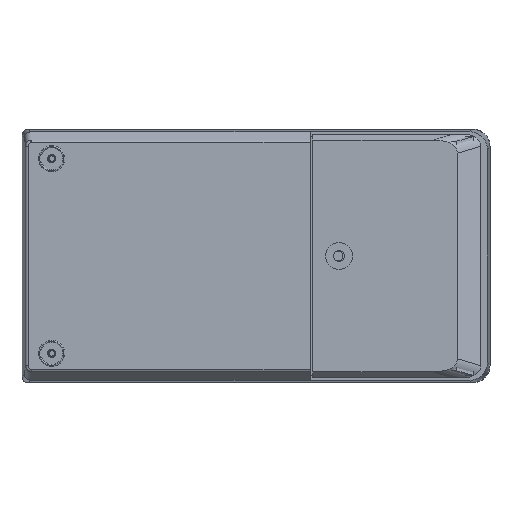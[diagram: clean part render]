
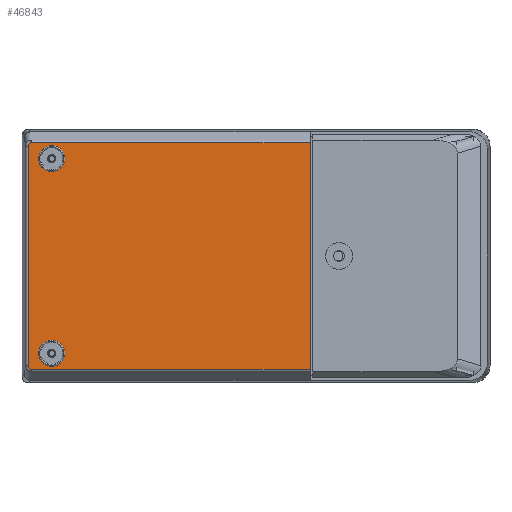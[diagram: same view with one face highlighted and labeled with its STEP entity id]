
A CAD part, front view. The second image highlights one B-rep face of the part: STEP entity #46843.
In plain terms, the highlighted planar face has unit normal (0, -1, 0).
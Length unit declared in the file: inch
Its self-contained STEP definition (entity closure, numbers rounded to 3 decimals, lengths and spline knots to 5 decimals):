
#39 = EDGE_LOOP ( 'NONE', ( #61343, #14520, #23910, #36274, #64973, #57418, #61464 ) ) ;
#469 = AXIS2_PLACEMENT_3D ( 'NONE', #19637, #20124, #25840 ) ;
#969 = VECTOR ( 'NONE', #42190, 39.37008 ) ;
#3059 = ORIENTED_EDGE ( 'NONE', *, *, #57910, .F. ) ;
#5284 = VERTEX_POINT ( 'NONE', #38644 ) ;
#6262 = EDGE_CURVE ( 'NONE', #5284, #63651, #49324, .T. ) ;
#7187 = LINE ( 'NONE', #37161, #969 ) ;
#7218 = DIRECTION ( 'NONE',  ( 0., 0., 1. ) ) ;
#8182 = DIRECTION ( 'NONE',  ( 0., -1., 0. ) ) ;
#10880 = AXIS2_PLACEMENT_3D ( 'NONE', #26276, #71784, #49683 ) ;
#11566 = EDGE_CURVE ( 'NONE', #33660, #41260, #20074, .T. ) ;
#13288 = CARTESIAN_POINT ( 'NONE',  ( -2.30377, -0.587, 1.13065 ) ) ;
#14520 = ORIENTED_EDGE ( 'NONE', *, *, #20201, .T. ) ;
#15236 = EDGE_CURVE ( 'NONE', #63651, #15389, #46996, .T. ) ;
#15389 = VERTEX_POINT ( 'NONE', #57738 ) ;
#15925 = FACE_BOUND ( 'NONE', #67475, .T. ) ;
#16982 = CARTESIAN_POINT ( 'NONE',  ( -2.27677, -0.587, 1.14572 ) ) ;
#17372 = CARTESIAN_POINT ( 'NONE',  ( -2.30377, -0.587, -1.13183 ) ) ;
#17472 = CARTESIAN_POINT ( 'NONE',  ( -2.27454, -0.587, 1.14582 ) ) ;
#17651 = EDGE_LOOP ( 'NONE', ( #36154, #68699 ) ) ;
#18138 = CARTESIAN_POINT ( 'NONE',  ( -2.067, -0.587, 0.985 ) ) ;
#18236 = CARTESIAN_POINT ( 'NONE',  ( -2.30377, -0.587, 1.11177 ) ) ;
#19637 = CARTESIAN_POINT ( 'NONE',  ( -2.067, -0.587, -0.985 ) ) ;
#19841 = VERTEX_POINT ( 'NONE', #65163 ) ;
#20074 =( BOUNDED_CURVE ( )  B_SPLINE_CURVE ( 3, ( #50969, #17372, #34038, #22579 ),
 .UNSPECIFIED., .F., .F. ) 
 B_SPLINE_CURVE_WITH_KNOTS ( ( 4, 4 ),
 ( 1.6723, 3.21614 ),
 .UNSPECIFIED. ) 
 CURVE ( )  GEOMETRIC_REPRESENTATION_ITEM ( )  RATIONAL_B_SPLINE_CURVE ( ( 1., 0.811, 0.811, 1. ) ) 
 REPRESENTATION_ITEM ( '' )  );
#20124 = DIRECTION ( 'NONE',  ( 0., 1., 0. ) ) ;
#20201 = EDGE_CURVE ( 'NONE', #41260, #19841, #27026, .T. ) ;
#20538 = CARTESIAN_POINT ( 'NONE',  ( -2.30377, -0.587, -1.11177 ) ) ;
#21756 = EDGE_CURVE ( 'NONE', #64891, #56634, #55311, .T. ) ;
#22579 = CARTESIAN_POINT ( 'NONE',  ( -2.27454, -0.587, -1.14582 ) ) ;
#23110 = CIRCLE ( 'NONE', #44454, 0.132 ) ;
#23241 = EDGE_CURVE ( 'NONE', #5284, #19841, #7187, .T. ) ;
#23303 = DIRECTION ( 'NONE',  ( -1., 0., 0. ) ) ;
#23840 = DIRECTION ( 'NONE',  ( 0., -1., 0. ) ) ;
#23910 = ORIENTED_EDGE ( 'NONE', *, *, #23241, .F. ) ;
#25049 = DIRECTION ( 'NONE',  ( 0., 0., 1. ) ) ;
#25290 = DIRECTION ( 'NONE',  ( 0., 1., 0. ) ) ;
#25840 = DIRECTION ( 'NONE',  ( 0., 0., 1. ) ) ;
#26258 = CARTESIAN_POINT ( 'NONE',  ( -2.067, -0.587, -0.853 ) ) ;
#26276 = CARTESIAN_POINT ( 'NONE',  ( -2.067, -0.587, -0.985 ) ) ;
#27026 = LINE ( 'NONE', #36470, #53756 ) ;
#27808 = CARTESIAN_POINT ( 'NONE',  ( -2.067, -0.587, -1.117 ) ) ;
#28049 = VECTOR ( 'NONE', #44694, 39.37008 ) ;
#28398 = CARTESIAN_POINT ( 'NONE',  ( -2.067, -0.587, 0.853 ) ) ;
#28945 = CARTESIAN_POINT ( 'NONE',  ( -2.27454, -0.587, -1.14582 ) ) ;
#30181 = CARTESIAN_POINT ( 'NONE',  ( -2.2929, -0.587, 1.14432 ) ) ;
#31254 = PLANE ( 'NONE',  #44552 ) ;
#32525 = CARTESIAN_POINT ( 'NONE',  ( -2.30377, -0.587, -1.09468 ) ) ;
#33660 = VERTEX_POINT ( 'NONE', #20538 ) ;
#34038 = CARTESIAN_POINT ( 'NONE',  ( -2.29175, -0.587, -1.14582 ) ) ;
#34134 = CARTESIAN_POINT ( 'NONE',  ( -2.27603, -0.587, 1.14579 ) ) ;
#36022 = CARTESIAN_POINT ( 'NONE',  ( -2.27454, -0.587, 1.14582 ) ) ;
#36153 = CARTESIAN_POINT ( 'NONE',  ( -2.27677, -0.587, 1.14572 ) ) ;
#36154 = ORIENTED_EDGE ( 'NONE', *, *, #73585, .T. ) ;
#36274 = ORIENTED_EDGE ( 'NONE', *, *, #6262, .T. ) ;
#36470 = CARTESIAN_POINT ( 'NONE',  ( 0.548, -0.587, -1.14582 ) ) ;
#37161 = CARTESIAN_POINT ( 'NONE',  ( 0.548, -0.587, 1.3438 ) ) ;
#37739 = CARTESIAN_POINT ( 'NONE',  ( -2.067, -0.587, 0.985 ) ) ;
#38644 = CARTESIAN_POINT ( 'NONE',  ( 0.548, -0.587, 1.14582 ) ) ;
#41260 = VERTEX_POINT ( 'NONE', #28945 ) ;
#42190 = DIRECTION ( 'NONE',  ( 0., 0., -1. ) ) ;
#42932 = EDGE_CURVE ( 'NONE', #68973, #54172, #23110, .T. ) ;
#44454 = AXIS2_PLACEMENT_3D ( 'NONE', #18138, #23840, #7218 ) ;
#44552 = AXIS2_PLACEMENT_3D ( 'NONE', #71027, #25290, #25049 ) ;
#44694 = DIRECTION ( 'NONE',  ( 0., 0., -1. ) ) ;
#46843 = ADVANCED_FACE ( 'NONE', ( #71997, #15925, #48894 ), #31254, .F. ) ;
#46996 =( BOUNDED_CURVE ( )  B_SPLINE_CURVE ( 3, ( #17472, #68202, #34134, #16982 ),
 .UNSPECIFIED., .F., .F. ) 
 B_SPLINE_CURVE_WITH_KNOTS ( ( 4, 4 ),
 ( 6.20864, 6.28319 ),
 .UNSPECIFIED. ) 
 CURVE ( )  GEOMETRIC_REPRESENTATION_ITEM ( )  RATIONAL_B_SPLINE_CURVE ( ( 1., 1., 1., 1. ) ) 
 REPRESENTATION_ITEM ( '' )  );
#47141 = EDGE_CURVE ( 'NONE', #15389, #72769, #48685, .T. ) ;
#47943 = DIRECTION ( 'NONE',  ( 1., 0., 0. ) ) ;
#47974 = DIRECTION ( 'NONE',  ( 0., 0., 1. ) ) ;
#48685 =( BOUNDED_CURVE ( )  B_SPLINE_CURVE ( 3, ( #36153, #30181, #13288, #70464 ),
 .UNSPECIFIED., .F., .F. ) 
 B_SPLINE_CURVE_WITH_KNOTS ( ( 4, 4 ),
 ( 0., 1.46929 ),
 .UNSPECIFIED. ) 
 CURVE ( )  GEOMETRIC_REPRESENTATION_ITEM ( )  RATIONAL_B_SPLINE_CURVE ( ( 1., 0.828, 0.828, 1. ) ) 
 REPRESENTATION_ITEM ( '' )  );
#48894 = FACE_OUTER_BOUND ( 'NONE', #39, .T. ) ;
#49324 = LINE ( 'NONE', #52191, #59997 ) ;
#49683 = DIRECTION ( 'NONE',  ( 0., 0., 1. ) ) ;
#50969 = CARTESIAN_POINT ( 'NONE',  ( -2.30377, -0.587, -1.11177 ) ) ;
#51494 = EDGE_CURVE ( 'NONE', #72769, #33660, #73423, .T. ) ;
#52191 = CARTESIAN_POINT ( 'NONE',  ( -2.27377, -0.587, 1.14582 ) ) ;
#53756 = VECTOR ( 'NONE', #47943, 39.37008 ) ;
#54172 = VERTEX_POINT ( 'NONE', #28398 ) ;
#55311 = CIRCLE ( 'NONE', #10880, 0.132 ) ;
#56613 = CIRCLE ( 'NONE', #469, 0.132 ) ;
#56634 = VERTEX_POINT ( 'NONE', #26258 ) ;
#57418 = ORIENTED_EDGE ( 'NONE', *, *, #47141, .T. ) ;
#57738 = CARTESIAN_POINT ( 'NONE',  ( -2.27677, -0.587, 1.14572 ) ) ;
#57910 = EDGE_CURVE ( 'NONE', #54172, #68973, #58086, .T. ) ;
#58086 = CIRCLE ( 'NONE', #63895, 0.132 ) ;
#59997 = VECTOR ( 'NONE', #23303, 39.37008 ) ;
#61343 = ORIENTED_EDGE ( 'NONE', *, *, #11566, .T. ) ;
#61464 = ORIENTED_EDGE ( 'NONE', *, *, #51494, .T. ) ;
#63651 = VERTEX_POINT ( 'NONE', #36022 ) ;
#63895 = AXIS2_PLACEMENT_3D ( 'NONE', #37739, #8182, #47974 ) ;
#64891 = VERTEX_POINT ( 'NONE', #27808 ) ;
#64973 = ORIENTED_EDGE ( 'NONE', *, *, #15236, .T. ) ;
#65163 = CARTESIAN_POINT ( 'NONE',  ( 0.548, -0.587, -1.14582 ) ) ;
#67212 = ORIENTED_EDGE ( 'NONE', *, *, #42932, .F. ) ;
#67475 = EDGE_LOOP ( 'NONE', ( #67212, #3059 ) ) ;
#68202 = CARTESIAN_POINT ( 'NONE',  ( -2.27528, -0.587, 1.14582 ) ) ;
#68699 = ORIENTED_EDGE ( 'NONE', *, *, #21756, .T. ) ;
#68973 = VERTEX_POINT ( 'NONE', #70276 ) ;
#70276 = CARTESIAN_POINT ( 'NONE',  ( -2.067, -0.587, 1.117 ) ) ;
#70464 = CARTESIAN_POINT ( 'NONE',  ( -2.30377, -0.587, 1.11177 ) ) ;
#71027 = CARTESIAN_POINT ( 'NONE',  ( -2.363, -0.587, 1.279 ) ) ;
#71784 = DIRECTION ( 'NONE',  ( 0., 1., 0. ) ) ;
#71997 = FACE_BOUND ( 'NONE', #17651, .T. ) ;
#72769 = VERTEX_POINT ( 'NONE', #18236 ) ;
#73423 = LINE ( 'NONE', #32525, #28049 ) ;
#73585 = EDGE_CURVE ( 'NONE', #56634, #64891, #56613, .T. ) ;
